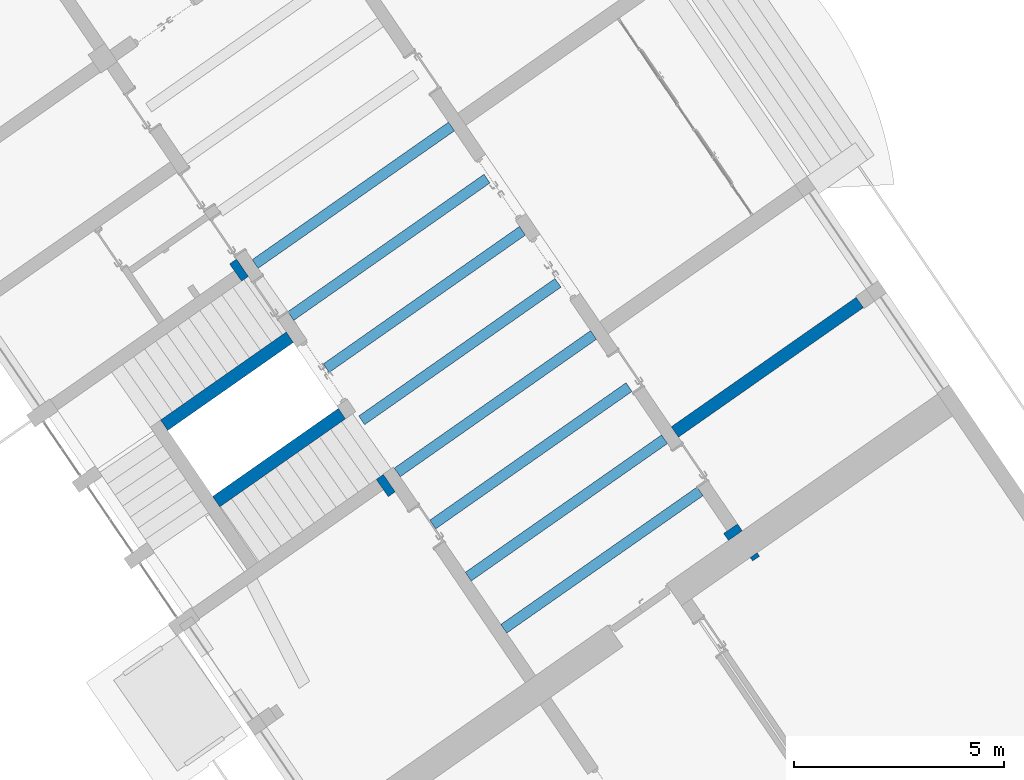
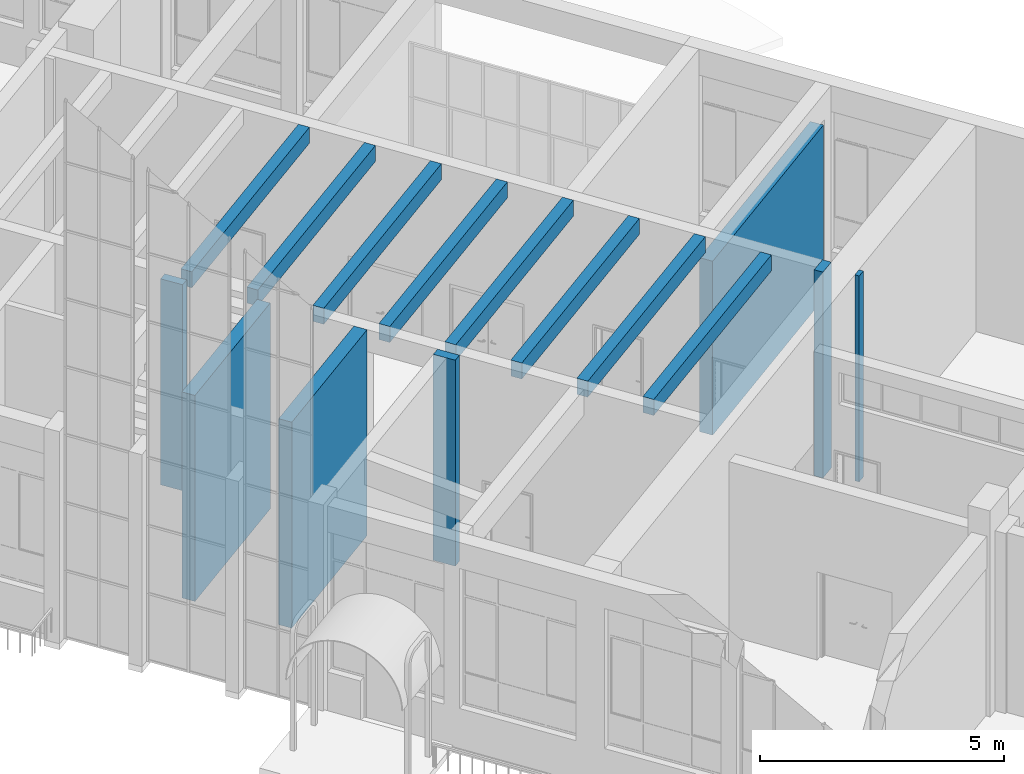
# One storey, part 71 of 157: 15 walls.
"""IFC2X3 building model written with IfcOpenShell, lengths in millimetres."""

from ifc_helpers import new_model, entity, si_unit, converted_unit, derived_unit, direction, frame, origin, place, context, subcontext, project, spatial, polyline, outline, extrude, material, layer, layer_set, layer_usage, type_object, element, save


model = new_model("IFC2X3")

# Units and contexts
model_context = context("Model", 3, precision=0.01, world=origin(), true_north=direction((6.123031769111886e-17, 1.0)))
body_context = subcontext(model_context, "Body", "Model", "MODEL_VIEW")
ifc_project = project(units=[si_unit("LENGTHUNIT", "METRE", prefix="MILLI"), si_unit("AREAUNIT", "SQUARE_METRE"), si_unit("VOLUMEUNIT", "CUBIC_METRE"), converted_unit("PLANEANGLEUNIT", "DEGREE", entity("IfcRatioMeasure", 0.017453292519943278), si_unit("PLANEANGLEUNIT", "RADIAN"), dimensions=[0, 0, 0, 0, 0, 0, 0]), si_unit("MASSUNIT", "GRAM", prefix="KILO"), derived_unit("MASSDENSITYUNIT", [(si_unit("MASSUNIT", "GRAM", prefix="KILO"), 1), (si_unit("LENGTHUNIT", "METRE"), -3)]), derived_unit("MOMENTOFINERTIAUNIT", [(si_unit("LENGTHUNIT", "METRE"), 4)]), si_unit("TIMEUNIT", "SECOND"), si_unit("FREQUENCYUNIT", "HERTZ"), si_unit("THERMODYNAMICTEMPERATUREUNIT", "DEGREE_CELSIUS"), derived_unit("THERMALTRANSMITTANCEUNIT", [(si_unit("MASSUNIT", "GRAM", prefix="KILO"), 1), (si_unit("THERMODYNAMICTEMPERATUREUNIT", "KELVIN"), -1), (si_unit("TIMEUNIT", "SECOND"), -3)]), derived_unit("THERMALCONDUCTANCEUNIT", [(si_unit("MASSUNIT", "GRAM", prefix="KILO"), 1), (si_unit("LENGTHUNIT", "METRE"), 1), (si_unit("THERMODYNAMICTEMPERATUREUNIT", "KELVIN"), -1), (si_unit("TIMEUNIT", "SECOND"), -3)]), derived_unit("VOLUMETRICFLOWRATEUNIT", [(si_unit("LENGTHUNIT", "METRE"), 3), (si_unit("TIMEUNIT", "SECOND"), -1)]), derived_unit("MASSFLOWRATEUNIT", [(si_unit("MASSUNIT", "GRAM", prefix="KILO"), 1), (si_unit("TIMEUNIT", "SECOND"), -1)]), derived_unit("ROTATIONALFREQUENCYUNIT", [(si_unit("TIMEUNIT", "SECOND"), -1)]), si_unit("ELECTRICCURRENTUNIT", "AMPERE"), si_unit("ELECTRICVOLTAGEUNIT", "VOLT"), si_unit("POWERUNIT", "WATT"), converted_unit("FORCEUNIT", "KIP", entity("IfcRatioMeasure", 2.088543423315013e-05), si_unit("FORCEUNIT", "NEWTON"), dimensions=[1, 1, -2, 0, 0, 0, 0]), si_unit("ILLUMINANCEUNIT", "LUX"), si_unit("LUMINOUSFLUXUNIT", "LUMEN"), si_unit("LUMINOUSINTENSITYUNIT", "CANDELA"), derived_unit("USERDEFINED", [(si_unit("MASSUNIT", "GRAM", prefix="KILO"), -1), (si_unit("LENGTHUNIT", "METRE"), -2), (si_unit("TIMEUNIT", "SECOND"), 3), (si_unit("LUMINOUSFLUXUNIT", "LUMEN"), 1)]), derived_unit("USERDEFINED", [(si_unit("MASSUNIT", "GRAM", prefix="KILO"), 1), (si_unit("LENGTHUNIT", "METRE"), 3), (si_unit("TIMEUNIT", "SECOND"), -3), (si_unit("ELECTRICCURRENTUNIT", "AMPERE"), -2)]), derived_unit("USERDEFINED", [(si_unit("LENGTHUNIT", "METRE"), 2), (si_unit("TIMEUNIT", "SECOND"), -2)]), derived_unit("SOUNDPOWERUNIT", [(si_unit("MASSUNIT", "GRAM", prefix="KILO"), 1), (si_unit("LENGTHUNIT", "METRE"), 2), (si_unit("TIMEUNIT", "SECOND"), -3)]), derived_unit("SOUNDPRESSUREUNIT", [(si_unit("MASSUNIT", "GRAM", prefix="KILO"), 1), (si_unit("LENGTHUNIT", "METRE"), -1), (si_unit("TIMEUNIT", "SECOND"), -2)]), derived_unit("LINEARVELOCITYUNIT", [(si_unit("LENGTHUNIT", "METRE"), 1), (si_unit("TIMEUNIT", "SECOND"), -1)]), si_unit("PRESSUREUNIT", "PASCAL"), derived_unit("USERDEFINED", [(si_unit("LENGTHUNIT", "METRE"), -2), (si_unit("MASSUNIT", "GRAM", prefix="KILO"), 1), (si_unit("TIMEUNIT", "SECOND"), -2)]), derived_unit("LINEARFORCEUNIT", [(si_unit("MASSUNIT", "GRAM", prefix="KILO"), 1), (si_unit("LENGTHUNIT", "METRE"), 1), (si_unit("TIMEUNIT", "SECOND"), -2), (si_unit("LENGTHUNIT", "METRE"), -1)]), derived_unit("PLANARFORCEUNIT", [(si_unit("MASSUNIT", "GRAM", prefix="KILO"), 1), (si_unit("LENGTHUNIT", "METRE"), 1), (si_unit("TIMEUNIT", "SECOND"), -2), (si_unit("LENGTHUNIT", "METRE"), -2)]), derived_unit("SPECIFICHEATCAPACITYUNIT", [(si_unit("LENGTHUNIT", "METRE"), 2), (si_unit("TIMEUNIT", "SECOND"), -2), (si_unit("THERMODYNAMICTEMPERATUREUNIT", "KELVIN"), -1)]), derived_unit("VAPORPERMEABILITYUNIT", [(si_unit("TIMEUNIT", "SECOND"), 1), (si_unit("LENGTHUNIT", "METRE"), -1)]), derived_unit("DYNAMICVISCOSITYUNIT", [(si_unit("MASSUNIT", "GRAM", prefix="KILO"), 1), (si_unit("LENGTHUNIT", "METRE"), -1), (si_unit("TIMEUNIT", "SECOND"), -1)]), derived_unit("THERMALEXPANSIONCOEFFICIENTUNIT", [(si_unit("THERMODYNAMICTEMPERATUREUNIT", "KELVIN"), -1)])], contexts=[model_context])

# Site, building, storey
site_placement = place(None, frame((0.0, 0.0, 0.0), z_axis=(0.0, 0.0, 1.0), x_axis=(0.8191520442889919, 0.5735764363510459, 0.0)))
site = spatial("IfcSite", under=ifc_project, at=site_placement, Name="Default", CompositionType="ELEMENT")
building_placement = place(site_placement, origin())
building = spatial("IfcBuilding", under=site, at=building_placement, CompositionType="ELEMENT")
storey_placement = place(building_placement, origin())
storey = spatial("IfcBuildingStorey", under=building, at=storey_placement, Name="1.EG +0.00", CompositionType="ELEMENT", Elevation=-4.331468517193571e-12)

# Walls
ifc_material = material(Name="Analytical Wall Surface_CJC")
ifc_layer_1 = layer(ifc_material, 300.0)
ifc_layer_set_1 = layer_set([ifc_layer_1], Name="Basic Wall:Wand_Innen_30")
ifc_layer_usage_1 = layer_usage(ifc_layer_set_1, "AXIS2", "NEGATIVE", 150.0)
wall_type_1 = type_object("IfcWallType", Name="Basic Wall:Wand_Innen_30", PredefinedType="STANDARD", material=ifc_layer_set_1)
wall_1_placement = place(storey_placement, frame((-217122.7363048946, 111596.35891435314, 0.0), z_axis=(0.0, 0.0, 1.0), x_axis=(-1.0, 0.0, 0.0)))
element("IfcWallStandardCase", 1, at=wall_1_placement, inside=storey, type_object=wall_type_1, material=ifc_layer_usage_1, Name="Basic Wall:Wand_Innen_30", ObjectType="Basic Wall:Wand_Innen_30", context=body_context, shape_type="SweptSolid", body=[
    extrude(outline(polyline([(3650.657519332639, -150.0), (3654.4767050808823, 150.0), (3.8191857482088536, 150.0), (0.0, -150.0), (3650.657519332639, -150.0)])), origin(), (0.0, 0.0, 1.0), 5150.000000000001),
])
wall_2_placement = place(storey_placement, frame((-217094.72894274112, 113796.3589143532, 0.0), z_axis=(0.0, 0.0, 1.0), x_axis=(-1.0, 0.0, 0.0)))
element("IfcWallStandardCase", 2, at=wall_2_placement, inside=storey, type_object=wall_type_1, material=ifc_layer_usage_1, Name="Basic Wall:Wand_Innen_30", ObjectType="Basic Wall:Wand_Innen_30", context=body_context, shape_type="SweptSolid", body=[
    extrude(outline(polyline([(3650.6575193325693, -150.0), (3654.4767050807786, 150.0), (3.8191857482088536, 150.0), (0.0, -150.0), (3650.6575193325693, -150.0)])), origin(), (0.0, 0.0, 1.0), 5150.000000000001),
])
wall_3_placement = place(storey_placement, frame((-205516.39100575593, 106696.35891435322, 0.0), z_axis=(0.0, 0.0, 1.0), x_axis=(-1.0, 0.0, 0.0)))
element("IfcWallStandardCase", 3, at=wall_3_placement, inside=storey, type_object=wall_type_1, material=ifc_layer_usage_1, Name="Basic Wall:Wand_Innen_30", ObjectType="Basic Wall:Wand_Innen_30", context=body_context, shape_type="SweptSolid", body=[
    extrude(outline(polyline([(5368.576593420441, -150.0), (5372.39577916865, 150.0), (0.0, 150.0), (0.0, -150.0), (5368.576593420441, -150.0)])), origin(), (0.0, 0.0, 1.0), 4350.0),
])
ifc_layer_2 = layer(ifc_material, 400.0)
ifc_layer_set_2 = layer_set([ifc_layer_2], Name="Basic Wall:Wand_Innen_40")
ifc_layer_usage_2 = layer_usage(ifc_layer_set_2, "AXIS2", "NEGATIVE", 200.0)
wall_type_2 = type_object("IfcWallType", Name="Basic Wall:Wand_Innen_40", PredefinedType="STANDARD", material=ifc_layer_set_2)
wall_4_placement = place(storey_placement, frame((-211123.14036932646, 103848.8129968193, 0.0), z_axis=(0.0, 0.0, 1.0), x_axis=(0.012729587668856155, 0.9999189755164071, 0.0)))
element("IfcWallStandardCase", 4, at=wall_4_placement, inside=storey, type_object=wall_type_2, material=ifc_layer_usage_2, Name="Basic Wall:Wand_Innen_40", ObjectType="Basic Wall:Wand_Innen_40", context=body_context, shape_type="SweptSolid", body=[
    extrude(outline(polyline([(202.5205990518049, -200.0), (202.52059905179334, 100.00405122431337), (202.52059905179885, 200.0), (0.0, 200.0), (5.092247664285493, -200.0), (202.5205990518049, -200.0)])), origin(), (0.0, 0.0, 1.0), 5150.000000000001),
])
ifc_layer_3 = layer(ifc_material, 200.0)
ifc_layer_set_3 = layer_set([ifc_layer_3], Name="Basic Wall:Wand_Innen_20")
ifc_layer_usage_3 = layer_usage(ifc_layer_set_3, "AXIS2", "NEGATIVE", 100.0)
wall_type_3 = type_object("IfcWallType", Name="Basic Wall:Wand_Innen_20", PredefinedType="STANDARD", material=ifc_layer_set_3)
wall_5_placement = place(storey_placement, frame((-211032.37700089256, 103121.35891435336, 0.0), z_axis=(0.0, 0.0, 1.0), x_axis=(0.012729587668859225, 0.999918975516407, 0.0)))
element("IfcWallStandardCase", 5, at=wall_5_placement, inside=storey, type_object=wall_type_3, material=ifc_layer_usage_3, Name="Basic Wall:Wand_Innen_20", ObjectType="Basic Wall:Wand_Innen_20", context=body_context, shape_type="SweptSolid", body=[
    extrude(outline(polyline([(101.28116502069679, -100.0), (98.73504118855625, 100.0), (0.0, 100.0), (0.0, -100.0), (101.28116502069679, -100.0)])), origin(), (0.0, 0.0, 1.0), 5150.000000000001),
])
ifc_layer_4 = layer(ifc_material, 500.00000000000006)
ifc_layer_set_4 = layer_set([ifc_layer_4], Name="Basic Wall:Wand_Innen_50")
ifc_layer_usage_4 = layer_usage(ifc_layer_set_4, "AXIS2", "NEGATIVE", 250.00000000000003)
wall_type_4 = type_object("IfcWallType", Name="Basic Wall:Wand_Innen_50", PredefinedType="STANDARD", material=ifc_layer_set_4)
wall_6_placement = place(storey_placement, frame((-217146.92448129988, 109596.35891435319, 0.0), z_axis=(0.0, 0.0, 1.0), x_axis=(-1.0, 0.0, 0.0)))
element("IfcWallStandardCase", 6, at=wall_6_placement, inside=storey, type_object=wall_type_4, material=ifc_layer_usage_4, Name="Basic Wall:Wand_Innen_50", ObjectType="Basic Wall:Wand_Innen_50", context=body_context, shape_type="SweptSolid", body=[
    extrude(outline(polyline([(206.7311171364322, -250.0), (206.73111713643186, 50.0), (206.73111713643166, 250.0), (6.36530958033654, 250.0), (0.0, -250.0), (206.7311171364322, -250.0)])), origin(), (0.0, 0.0, 1.0), 5150.000000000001),
])
wall_7_placement = place(storey_placement, frame((-217067.9946425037, 115796.35891435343, 0.0), z_axis=(0.0, 0.0, 1.0), x_axis=(-1.0, 0.0, 0.0)))
element("IfcWallStandardCase", 7, at=wall_7_placement, inside=storey, type_object=wall_type_4, material=ifc_layer_usage_4, Name="Basic Wall:Wand_Innen_50", ObjectType="Basic Wall:Wand_Innen_50", context=body_context, shape_type="SweptSolid", body=[
    extrude(outline(polyline([(203.1705001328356, -250.0), (203.1705001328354, -50.0), (203.17050013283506, 250.0), (6.36530958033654, 250.0), (0.0, -250.0), (203.1705001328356, -250.0)])), origin(), (0.0, 0.0, 1.0), 5150.000000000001),
])
ifc_layer_5 = layer(ifc_material, 250.00000000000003)
ifc_layer_set_5 = layer_set([ifc_layer_5], Name="Basic Wall:Wand_Innen_25")
ifc_layer_usage_5 = layer_usage(ifc_layer_set_5, "AXIS2", "NEGATIVE", 125.00000000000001)
wall_type_5 = type_object("IfcWallType", Name="Basic Wall:Wand_Innen_25", PredefinedType="STANDARD", material=ifc_layer_set_5)
wall_8_placement = place(storey_placement, frame((-211185.31017397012, 106696.35891435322, 4750.0), z_axis=(0.0, 0.0, 1.0), x_axis=(-1.0, 0.0, 0.0)))
element("IfcWallStandardCase", 8, at=wall_8_placement, inside=storey, type_object=wall_type_5, material=ifc_layer_usage_5, Name="Basic Wall:Wand_Innen_25", ObjectType="Basic Wall:Wand_Innen_25", context=body_context, shape_type="SweptSolid", body=[
    extrude(outline(polyline([(5700.100120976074, -125.0), (5703.28277576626, 125.0), (3.182654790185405, 125.0), (0.0, -125.0), (5700.100120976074, -125.0)])), origin(), (0.0, 0.0, 1.0), 400.0),
])
wall_9_placement = place(storey_placement, frame((-211204.4061027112, 105196.35891435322, 4750.0), z_axis=(0.0, 0.0, 1.0), x_axis=(-1.0, 0.0, 0.0)))
element("IfcWallStandardCase", 9, at=wall_9_placement, inside=storey, type_object=wall_type_5, material=ifc_layer_usage_5, Name="Basic Wall:Wand_Innen_25", ObjectType="Basic Wall:Wand_Innen_25", context=body_context, shape_type="SweptSolid", body=[
    extrude(outline(polyline([(5700.10012097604, -125.0), (5703.282775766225, 125.0), (3.182654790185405, 125.0), (0.0, -125.0), (5700.10012097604, -125.0)])), origin(), (0.0, 0.0, 1.0), 400.0),
])
wall_10_placement = place(storey_placement, frame((-211166.2142452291, 108196.35891435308, 4750.0), z_axis=(0.0, 0.0, 1.0), x_axis=(-1.0, 0.0, 0.0)))
element("IfcWallStandardCase", 10, at=wall_10_placement, inside=storey, type_object=wall_type_5, material=ifc_layer_usage_5, Name="Basic Wall:Wand_Innen_25", ObjectType="Basic Wall:Wand_Innen_25", context=body_context, shape_type="SweptSolid", body=[
    extrude(outline(polyline([(5700.100120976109, -125.0), (5703.282775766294, 125.0), (3.182654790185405, 125.0), (0.0, -125.0), (5700.100120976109, -125.0)])), origin(), (0.0, 0.0, 1.0), 400.0),
])
wall_11_placement = place(storey_placement, frame((-211147.11831648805, 109696.35891435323, 4750.0), z_axis=(0.0, 0.0, 1.0), x_axis=(-1.0, 0.0, 0.0)))
element("IfcWallStandardCase", 11, at=wall_11_placement, inside=storey, type_object=wall_type_5, material=ifc_layer_usage_5, Name="Basic Wall:Wand_Innen_25", ObjectType="Basic Wall:Wand_Innen_25", context=body_context, shape_type="SweptSolid", body=[
    extrude(outline(polyline([(5700.100120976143, -125.0), (5703.282775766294, 125.0), (3.182654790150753, 125.0), (0.0, -125.0), (5700.100120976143, -125.0)])), origin(), (0.0, 0.0, 1.0), 400.0),
])
wall_12_placement = place(storey_placement, frame((-211128.02238774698, 111196.3589143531, 4750.0), z_axis=(0.0, 0.0, 1.0), x_axis=(-1.0, 0.0, 0.0)))
element("IfcWallStandardCase", 12, at=wall_12_placement, inside=storey, type_object=wall_type_5, material=ifc_layer_usage_5, Name="Basic Wall:Wand_Innen_25", ObjectType="Basic Wall:Wand_Innen_25", context=body_context, shape_type="SweptSolid", body=[
    extrude(outline(polyline([(5700.100120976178, -125.0), (5703.282775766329, 125.0), (3.182654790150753, 125.0), (0.0, -125.0), (5700.100120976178, -125.0)])), origin(), (0.0, 0.0, 1.0), 400.0),
])
wall_13_placement = place(storey_placement, frame((-211108.92645900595, 112696.3589143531, 4750.0), z_axis=(0.0, 0.0, 1.0), x_axis=(-1.0, 0.0, 0.0)))
element("IfcWallStandardCase", 13, at=wall_13_placement, inside=storey, type_object=wall_type_5, material=ifc_layer_usage_5, Name="Basic Wall:Wand_Innen_25", ObjectType="Basic Wall:Wand_Innen_25", context=body_context, shape_type="SweptSolid", body=[
    extrude(outline(polyline([(5700.100120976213, -125.0), (5703.282775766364, 125.0), (3.182654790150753, 125.0), (0.0, -125.0), (5700.100120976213, -125.0)])), origin(), (0.0, 0.0, 1.0), 400.0),
])
wall_14_placement = place(storey_placement, frame((-211089.83053026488, 114196.35891435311, 4750.0), z_axis=(0.0, 0.0, 1.0), x_axis=(-1.0, 0.0, 0.0)))
element("IfcWallStandardCase", 14, at=wall_14_placement, inside=storey, type_object=wall_type_5, material=ifc_layer_usage_5, Name="Basic Wall:Wand_Innen_25", ObjectType="Basic Wall:Wand_Innen_25", context=body_context, shape_type="SweptSolid", body=[
    extrude(outline(polyline([(5700.100120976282, -125.0), (5703.282775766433, 125.0), (3.182654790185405, 125.0), (0.0, -125.0), (5700.100120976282, -125.0)])), origin(), (0.0, 0.0, 1.0), 400.0),
])
wall_15_placement = place(storey_placement, frame((-211070.7346015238, 115696.35891435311, 4750.0), z_axis=(0.0, 0.0, 1.0), x_axis=(-1.0, 0.0, 0.0)))
element("IfcWallStandardCase", 15, at=wall_15_placement, inside=storey, type_object=wall_type_5, material=ifc_layer_usage_5, Name="Basic Wall:Wand_Innen_25", ObjectType="Basic Wall:Wand_Innen_25", context=body_context, shape_type="SweptSolid", body=[
    extrude(outline(polyline([(5700.100120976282, -125.0), (5703.282775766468, 125.0), (3.182654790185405, 125.0), (0.0, -125.0), (5700.100120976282, -125.0)])), origin(), (0.0, 0.0, 1.0), 400.0),
])

save(model, "model.ifc")
